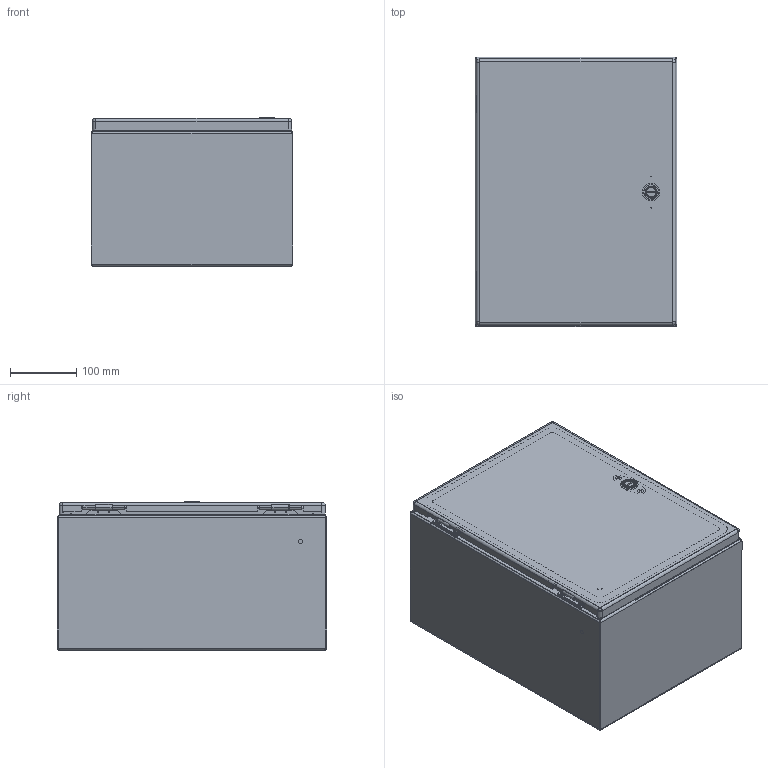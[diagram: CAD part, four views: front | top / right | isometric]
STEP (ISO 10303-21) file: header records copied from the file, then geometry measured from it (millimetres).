
FILE_DESCRIPTION (( 'STEP AP203' ), '1' );
FILE_NAME ('csd16128ss.STEP', '2012-03-13T12:58:04', ( 'Hoffman User' ), ( 'Hoffman Enclosures' ), 'SwSTEP 2.0', 'SolidWorks 2010', '' );
FILE_SCHEMA (( 'CONFIG_CONTROL_DESIGN' ));
Length unit declared in the file: inch
Products named in the file (24): 87953267; 23271002_After Weld; 87543026; 89076399; 89076193; 89056623; 87930615; 87928711; 87929769_Installed on Pin; 87953288_weldment; 87953289; 99401226_After Weld; 87751114_87751114; 87953332; 64101002; 64201001; 87541994_Installed Height; 87541995; 64202002; 64210001; 64203001; 87927840_87927840; 87953266; csd16128ss
Assembly tree (31 placements, depth 3):
  csd16128ss
    64101002
      64201001
      64210001
      64202002
      87541994_Installed Height
      87541995
      87927840_87927840
      64203001
    87930615  x2
      87929769_Installed on Pin
      87928711
    87543026  x2
    89076399  x2
      89056623
      89076193
    87953266
      23271002_After Weld  x4
      87953267
      99401226_After Weld
    87953288_weldment
      99401226_After Weld
      87953332
      87751114_87751114  x2
      87953289
Bounding box: 304.8 x 406.4 x 223.9 mm (x, y, z)
Volume: 854489.7 mm3; surface area: 1274036.1 mm2
Topology: 29 solids, 29 shells, 1468 faces, 3558 edges, 2170 vertices
Faces by surface type: plane 608, cylinder 446, bspline 220, torus 122, cone 64, sphere 8
Entity records: 42712 total; most frequent: CARTESIAN_POINT 15036, ORIENTED_EDGE 5414, DIRECTION 4813, EDGE_CURVE 2707, AXIS2_PLACEMENT_3D 1777, VERTEX_POINT 1662, VECTOR 1259, LINE 1259
